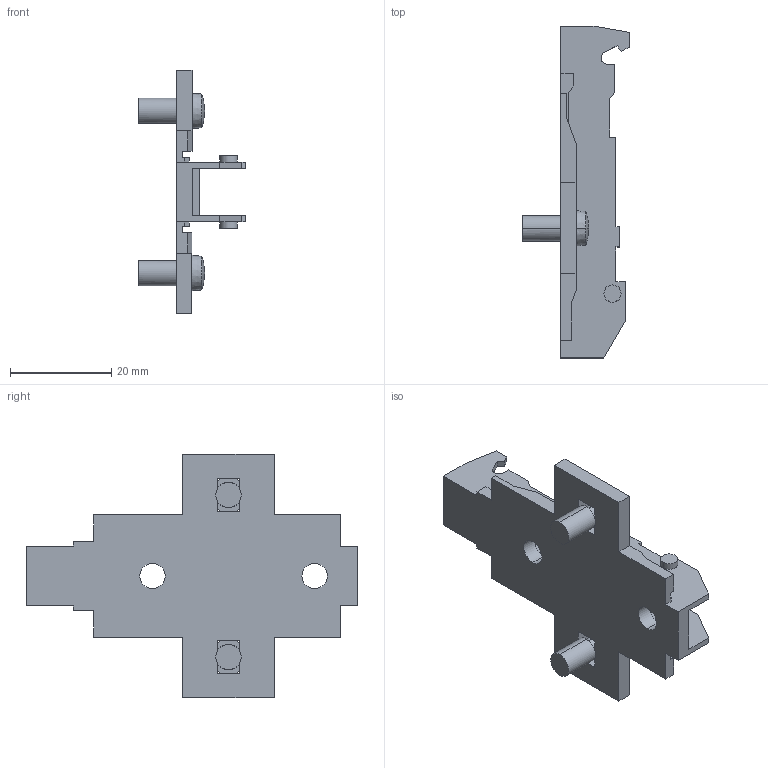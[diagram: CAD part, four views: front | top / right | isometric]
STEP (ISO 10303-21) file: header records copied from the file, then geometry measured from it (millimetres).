
FILE_DESCRIPTION (( 'STEP AP214' ), '1' );
FILE_NAME ('1D_Kreuzmontageplatte 37_32_5mm_Dübel_kurz_3.step', '2010-11-18T10:21:10', ( 'grass' ), ( '' ), 'SwSTEP 2.0', 'SolidWorks 2010', '' );
FILE_SCHEMA (( 'AUTOMOTIVE_DESIGN' ));
Length unit declared in the file: millimetre
Products named in the file (1): 1D_Kreuzmontageplatte 37_32_5mm_Dübel_kurz_3
Bounding box: 21 x 65.5 x 48 mm (x, y, z)
Volume: 6638.2 mm3; surface area: 7258 mm2
Topology: 1 solids, 1 shells, 130 faces, 400 edges, 258 vertices
Faces by surface type: plane 100, cylinder 22, sphere 4, cone 4
Entity records: 4506 total; most frequent: ORIENTED_EDGE 800, CARTESIAN_POINT 789, DIRECTION 742, EDGE_CURVE 400, LINE 320, VECTOR 320, VERTEX_POINT 258, AXIS2_PLACEMENT_3D 211
